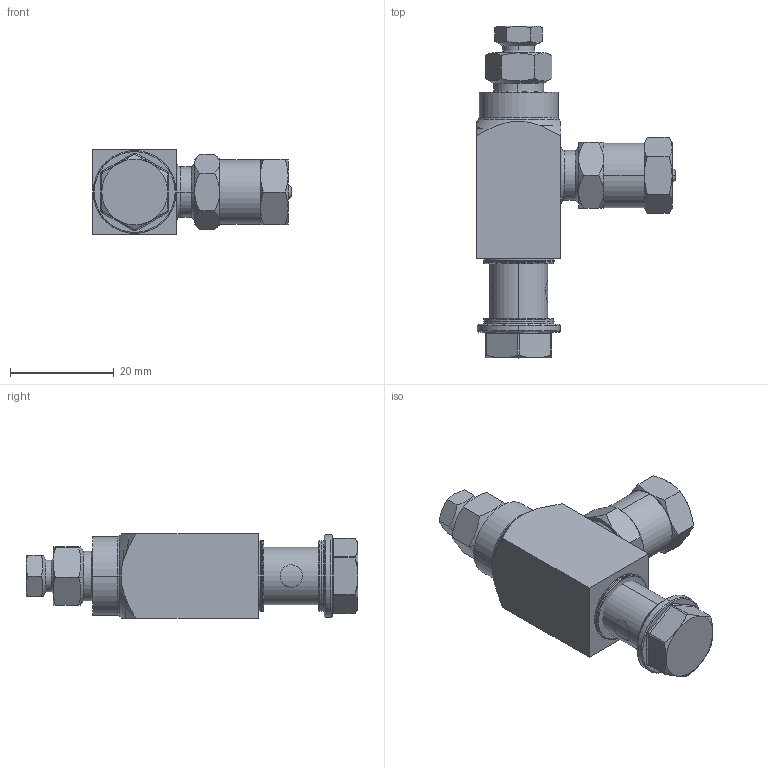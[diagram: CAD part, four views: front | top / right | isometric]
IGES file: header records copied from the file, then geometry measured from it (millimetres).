
Start section:  PTC IGES file: 24w485-en-c.igs
Global section: file name: 24w485-en-c.igs; native system: Creo Parametric by PTC Inc.; preprocessor: 2019030; author: qusrh3; organization: Unknown; date: 20191231.181306; units: inch
Bounding box: 38.37 x 64.06 x 16.36 mm (x, y, z)
Surface area: 6996.8 mm2 (no closed solid volume)
Topology: 0 solids, 0 shells, 172 faces, 722 edges, 722 vertices
Faces by surface type: revolution 120, bspline 52
